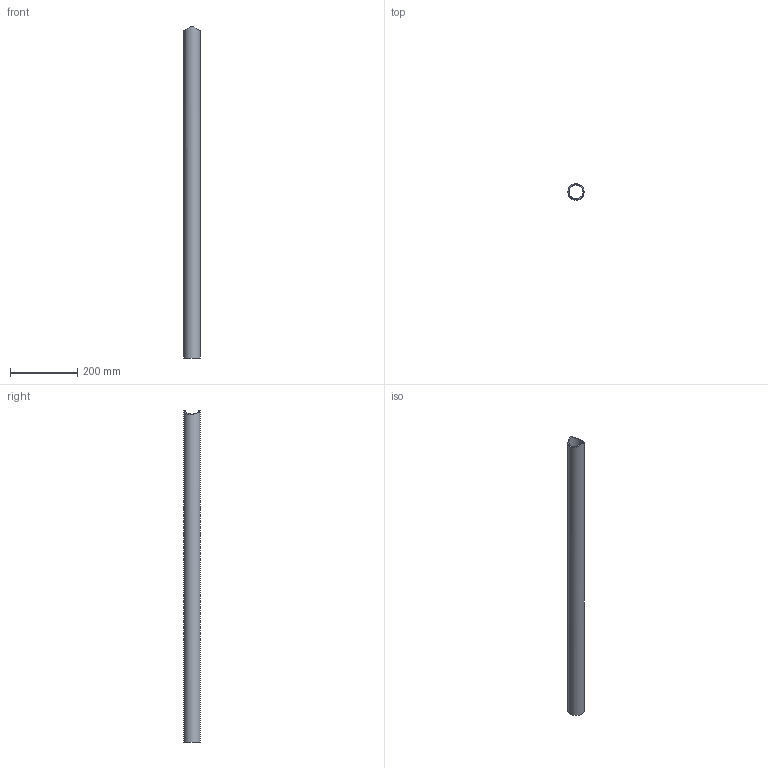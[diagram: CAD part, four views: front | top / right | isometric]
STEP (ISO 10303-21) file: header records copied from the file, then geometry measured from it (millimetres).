
FILE_DESCRIPTION(('Open CASCADE Model'),'2;1');
FILE_NAME('Open CASCADE Shape Model','2016-07-12T10:39:27',('Author'),( 'Open CASCADE'),'Open CASCADE STEP processor 6.8','Open CASCADE 6.8' ,'Unknown');
FILE_SCHEMA(('AUTOMOTIVE_DESIGN_CC2 { 1 2 10303 214 -1 1 5 4 }'));
Length unit declared in the file: millimetre
Products named in the file (1): Open CASCADE STEP translator 6.8 1
Bounding box: 48.3 x 48.3 x 988 mm (x, y, z)
Volume: 444172.8 mm3; surface area: 278577.6 mm2
Topology: 1 solids, 1 shells, 5 faces, 10 edges, 6 vertices
Faces by surface type: plane 3, cylinder 2
Full cylindrical faces by diameter (mm): 41.9 x1, 48.3 x1
Entity records: 302 total; most frequent: CARTESIAN_POINT 92, DIRECTION 36, ORIENTED_EDGE 20, PCURVE 20, DEFINITIONAL_REPRESENTATION 20, AXIS2_PLACEMENT_3D 12, EDGE_CURVE 10, B_SPLINE_CURVE_WITH_KNOTS 10
